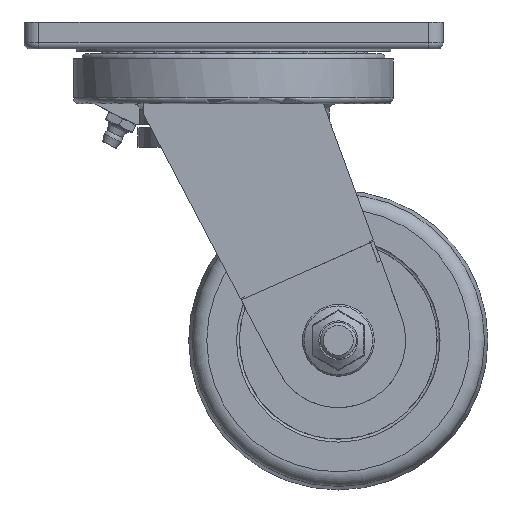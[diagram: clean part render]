
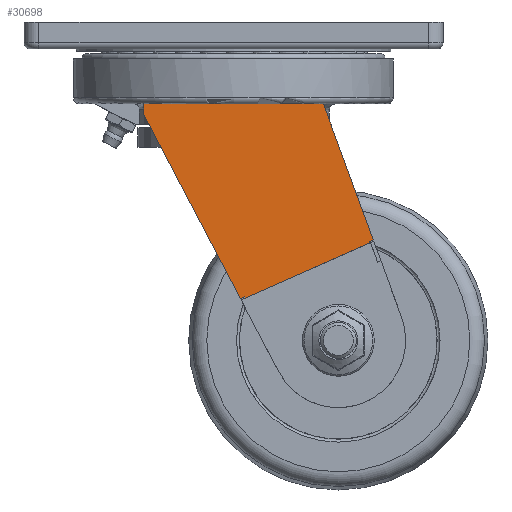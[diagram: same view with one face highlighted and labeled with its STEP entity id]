
A CAD part, front view. The second image highlights one B-rep face of the part: STEP entity #30698.
In plain terms, the highlighted planar face has unit normal (0, -1, 0).
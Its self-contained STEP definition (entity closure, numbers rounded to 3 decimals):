
#875=CARTESIAN_POINT('',(164.392,70.446,-65.75));
#876=VERTEX_POINT('',#875);
#1018=CARTESIAN_POINT('',(205.939,70.446,-47.343));
#1019=VERTEX_POINT('',#1018);
#1280=CARTESIAN_POINT('',(164.392,70.446,-65.75));
#1281=DIRECTION('',(0.914,0.,0.405));
#1282=VECTOR('',#1281,45.442);
#1283=LINE('',#1280,#1282);
#1284=EDGE_CURVE('',#876,#1019,#1283,.T.);
#30219=CARTESIAN_POINT('',(130.691,70.446,-0.861));
#30220=VERTEX_POINT('',#30219);
#30228=CARTESIAN_POINT('',(190.298,70.446,-0.861));
#30229=VERTEX_POINT('',#30228);
#30277=CARTESIAN_POINT('',(190.495,70.446,-0.861));
#30278=VERTEX_POINT('',#30277);
#30285=CARTESIAN_POINT('',(207.141,70.446,-46.263));
#30286=VERTEX_POINT('',#30285);
#30287=CARTESIAN_POINT('',(190.495,70.446,-0.861));
#30288=DIRECTION('',(0.344,0.0,-0.939));
#30289=VECTOR('',#30288,48.358);
#30290=LINE('',#30287,#30289);
#30291=EDGE_CURVE('',#30278,#30286,#30290,.T.);
#30308=CARTESIAN_POINT('',(130.495,70.446,-4.294));
#30309=VERTEX_POINT('',#30308);
#30316=CARTESIAN_POINT('',(130.495,70.446,-0.861));
#30317=VERTEX_POINT('',#30316);
#30318=CARTESIAN_POINT('',(130.495,70.446,-4.294));
#30319=DIRECTION('',(0.0,0.0,1.0));
#30320=VECTOR('',#30319,3.434);
#30321=LINE('',#30318,#30320);
#30322=EDGE_CURVE('',#30309,#30317,#30321,.T.);
#30345=CARTESIAN_POINT('',(162.785,70.446,-65.915));
#30346=VERTEX_POINT('',#30345);
#30353=CARTESIAN_POINT('',(162.785,70.446,-65.915));
#30354=DIRECTION('',(-0.464,0.0,0.886));
#30355=VECTOR('',#30354,69.568);
#30356=LINE('',#30353,#30355);
#30357=EDGE_CURVE('',#30346,#30309,#30356,.T.);
#30369=CARTESIAN_POINT('',(164.159,70.446,-65.306));
#30370=VERTEX_POINT('',#30369);
#30377=CARTESIAN_POINT('',(164.159,70.446,-65.306));
#30378=DIRECTION('',(-0.914,0.0,-0.405));
#30379=VECTOR('',#30378,1.503);
#30380=LINE('',#30377,#30379);
#30381=EDGE_CURVE('',#30370,#30346,#30380,.T.);
#30401=CARTESIAN_POINT('',(164.392,70.446,-65.75));
#30402=DIRECTION('',(-0.464,0.0,0.886));
#30403=VECTOR('',#30402,0.501);
#30404=LINE('',#30401,#30403);
#30405=EDGE_CURVE('',#876,#30370,#30404,.T.);
#30629=CARTESIAN_POINT('',(205.767,70.446,-46.872));
#30630=VERTEX_POINT('',#30629);
#30637=CARTESIAN_POINT('',(205.767,70.446,-46.872));
#30638=DIRECTION('',(0.344,0.0,-0.939));
#30639=VECTOR('',#30638,0.501);
#30640=LINE('',#30637,#30639);
#30641=EDGE_CURVE('',#30630,#1019,#30640,.T.);
#30655=CARTESIAN_POINT('',(207.141,70.446,-46.263));
#30656=DIRECTION('',(-0.914,0.0,-0.405));
#30657=VECTOR('',#30656,1.503);
#30658=LINE('',#30655,#30657);
#30659=EDGE_CURVE('',#30286,#30630,#30658,.T.);
#30665=CARTESIAN_POINT('',(180.22,70.446,-49.837));
#30666=DIRECTION('',(0.0,1.0,0.0));
#30667=DIRECTION('',(-0.405,0.0,0.914));
#30668=AXIS2_PLACEMENT_3D('',#30665,#30666,#30667);
#30669=PLANE('',#30668);
#30670=ORIENTED_EDGE('',*,*,#1284,.T.);
#30671=ORIENTED_EDGE('',*,*,#30641,.F.);
#30672=ORIENTED_EDGE('',*,*,#30659,.F.);
#30673=ORIENTED_EDGE('',*,*,#30291,.F.);
#30674=CARTESIAN_POINT('',(190.298,70.446,-0.861));
#30675=DIRECTION('',(1.0,0.0,0.0));
#30676=VECTOR('',#30675,0.196);
#30677=LINE('',#30674,#30676);
#30678=EDGE_CURVE('',#30229,#30278,#30677,.T.);
#30679=ORIENTED_EDGE('',*,*,#30678,.F.);
#30680=CARTESIAN_POINT('',(130.691,70.446,-0.861));
#30681=DIRECTION('',(1.0,0.0,0.0));
#30682=VECTOR('',#30681,59.607);
#30683=LINE('',#30680,#30682);
#30684=EDGE_CURVE('',#30220,#30229,#30683,.T.);
#30685=ORIENTED_EDGE('',*,*,#30684,.F.);
#30686=CARTESIAN_POINT('',(130.495,70.446,-0.861));
#30687=DIRECTION('',(1.0,0.0,0.0));
#30688=VECTOR('',#30687,0.196);
#30689=LINE('',#30686,#30688);
#30690=EDGE_CURVE('',#30317,#30220,#30689,.T.);
#30691=ORIENTED_EDGE('',*,*,#30690,.F.);
#30692=ORIENTED_EDGE('',*,*,#30322,.F.);
#30693=ORIENTED_EDGE('',*,*,#30357,.F.);
#30694=ORIENTED_EDGE('',*,*,#30381,.F.);
#30695=ORIENTED_EDGE('',*,*,#30405,.F.);
#30696=EDGE_LOOP('',(#30670,#30671,#30672,#30673,#30679,#30685,#30691,#30692,#30693,#30694,#30695));
#30697=FACE_OUTER_BOUND('',#30696,.T.);
#30698=ADVANCED_FACE('',(#30697),#30669,.F.);
